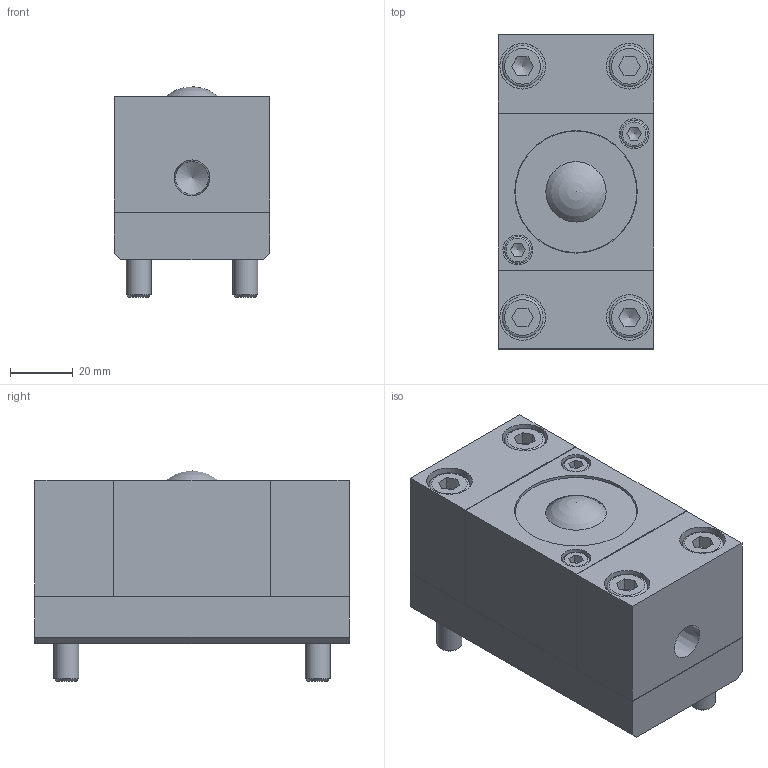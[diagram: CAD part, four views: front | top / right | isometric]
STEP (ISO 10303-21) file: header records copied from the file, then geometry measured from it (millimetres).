
FILE_DESCRIPTION(/* description */ (''),/* implementation_level */ '2;1');
FILE_NAME(/* name */ 'Z:\34-Tei\01-web 3Dデータ\41-ISR-50S型\ISR-50S-100-A.stp',/* time_stamp */ '2015-01-16T09:36:53+09:00',/* author */ ('yamaki'),/* organization */ (''),/* preprocessor_version */ 'ST-DEVELOPER v15.6',/* originating_system */ 'Autodesk Inventor 2015',/* authorisation */ '');
FILE_SCHEMA (('AUTOMOTIVE_DESIGN { 1 0 10303 214 3 1 1 }'));
Length unit declared in the file: millimetre
Products named in the file (5): 4200AT-01-100; 六角穴付きボルト-M8x55; 4200AT-02; 4200AT-00; ISR-50S
Bounding box: 49.5 x 100 x 67 mm (x, y, z)
Volume: 247284.2 mm3; surface area: 58082.2 mm2
Topology: 5 solids, 5 shells, 149 faces, 317 edges, 198 vertices
Faces by surface type: plane 108, cylinder 22, cone 10, torus 8, sphere 1
Full cylindrical faces by diameter (mm): 8 x2, 8.5 x2, 9 x2, 9.5 x2, 10.5 x1, 13 x4, 14.5 x4, 31.7 x1, 38.5 x1, 39 x1, 42 x2
Entity records: 3471 total; most frequent: CARTESIAN_POINT 590, DIRECTION 564, ORIENTED_EDGE 482, EDGE_CURVE 241, AXIS2_PLACEMENT_3D 197, EDGE_LOOP 192, LINE 170, VECTOR 170
